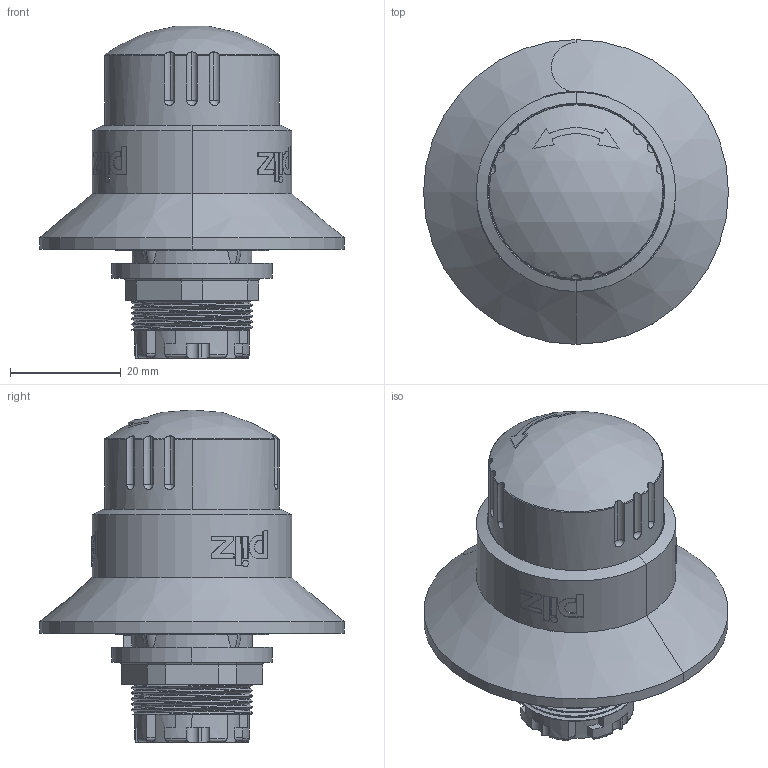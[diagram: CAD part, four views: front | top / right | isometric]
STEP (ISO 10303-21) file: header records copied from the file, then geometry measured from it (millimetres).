
FILE_DESCRIPTION((''),'2;1');
FILE_NAME('2011612_ASM','2012-12-12T',('rink'),(''),'PRO/ENGINEER BY PARAMETRIC TECHNOLOGY CORPORATION, 2011040','PRO/ENGINEER BY PARAMETRIC TECHNOLOGY CORPORATION, 2011040','');
FILE_SCHEMA(('AUTOMOTIVE_DESIGN_CC2 { 1 2 10303 214 -1 1 5 2 }'));
Length unit declared in the file: millimetre
Products named in the file (4): 2011609; 2011610; 2011611; 2011612_ASM
Assembly tree (3 placements, depth 2):
  2011612_ASM
    2011609
    2011610
    2011611
Bounding box: 55 x 55 x 59.9 mm (x, y, z)
Volume: 40414.8 mm3; surface area: 19477.8 mm2
Topology: 6 solids, 9 shells, 1061 faces, 3124 edges, 2060 vertices
Faces by surface type: plane 719, cylinder 231, cone 61, torus 36, sphere 11, bspline 3
Entity records: 50250 total; most frequent: CARTESIAN_POINT 14560, ORIENTED_EDGE 6224, DIRECTION 4324, PRESENTATION_STYLE_ASSIGNMENT 3145, STYLED_ITEM 3127, CURVE_STYLE 3121, EDGE_CURVE 3112, VERTEX_POINT 2054
